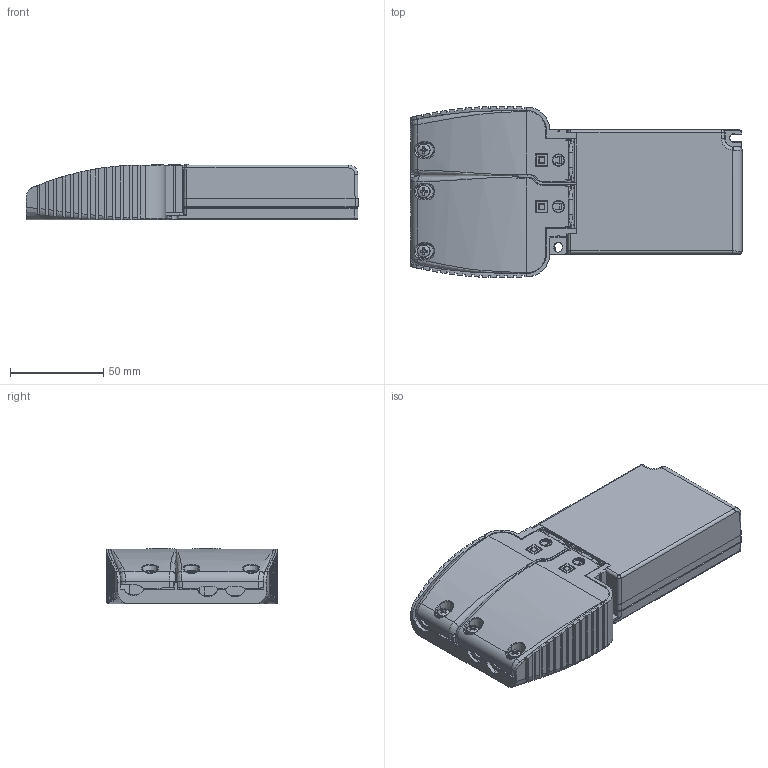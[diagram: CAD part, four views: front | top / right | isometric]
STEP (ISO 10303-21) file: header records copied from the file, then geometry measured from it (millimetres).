
FILE_DESCRIPTION (( 'STEP AP203' ), '1' );
FILE_NAME ('9C1-4553334-000-00.STP', '2025-11-26T10:51:45', ( '' ), ( '' ), 'SwSTEP 2.0', 'SolidWorks 2023', '' );
FILE_SCHEMA (( 'CONFIG_CONTROL_DESIGN' ));
Products named in the file (1): 9C1-4553334-000-00
Bounding box: 178.42 x 92.07 x 30.03 mm (x, y, z)
Volume: 234058.2 mm3; surface area: 85752.7 mm2
Topology: 7 solids, 7 shells, 2169 faces, 5855 edges, 3736 vertices
Faces by surface type: plane 1275, bspline 378, cylinder 292, cone 185, torus 24, sphere 15
Full cylindrical faces by diameter (mm): 2 x4, 2.1 x30, 2.2 x4, 6.6 x2, 6.8 x3
Entity records: 84324 total; most frequent: CARTESIAN_POINT 35581, ORIENTED_EDGE 11164, DIRECTION 8197, EDGE_CURVE 5582, VERTEX_POINT 3634, LINE 3425, VECTOR 3425, EDGE_LOOP 2418
